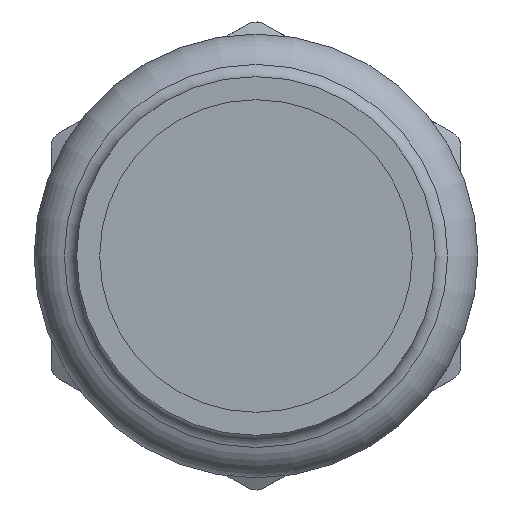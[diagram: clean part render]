
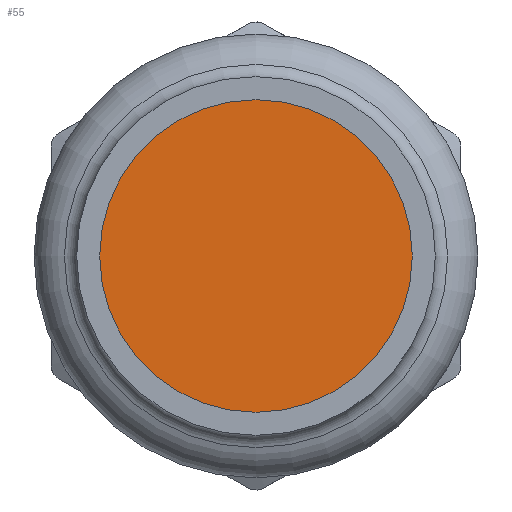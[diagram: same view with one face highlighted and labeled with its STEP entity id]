
A CAD part, front view. The second image highlights one B-rep face of the part: STEP entity #55.
In plain terms, the highlighted planar face has unit normal (0, -1, 0).
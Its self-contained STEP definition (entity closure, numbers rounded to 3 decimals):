
#55=ADVANCED_FACE('',(#110),#112,.T.);
#110=FACE_BOUND('',#111,.T.);
#111=EDGE_LOOP('',(#416));
#112=PLANE('',#113);
#113=AXIS2_PLACEMENT_3D('',#114,#115,#116);
#114=CARTESIAN_POINT('',(0.,7.146,0.));
#115=DIRECTION('',(0.,-1.,0.));
#116=DIRECTION('',(0.,0.,-1.));
#416=ORIENTED_EDGE('',*,*,#564,.T.);
#564=EDGE_CURVE('',#640,#640,#641,.F.);
#640=VERTEX_POINT('',#770);
#641=CIRCLE('',#771,9.15);
#770=CARTESIAN_POINT('',(0.,7.146,9.15));
#771=AXIS2_PLACEMENT_3D('',#772,#773,#774);
#772=CARTESIAN_POINT('',(0.,7.146,0.));
#773=DIRECTION('',(0.,1.,0.));
#774=DIRECTION('',(0.,0.,1.));
